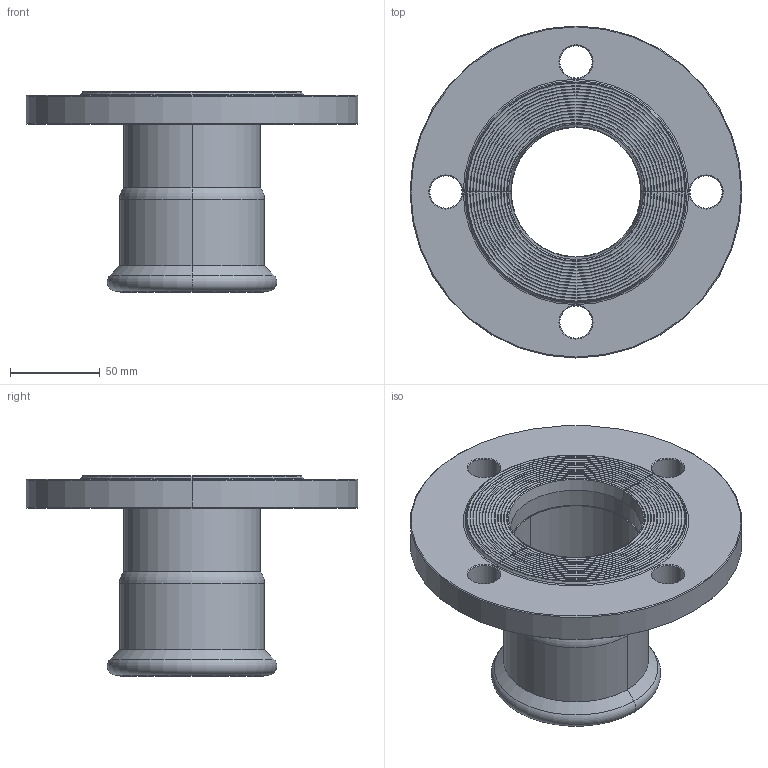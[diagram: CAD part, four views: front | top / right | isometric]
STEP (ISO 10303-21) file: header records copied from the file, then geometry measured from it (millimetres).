
FILE_DESCRIPTION(('Creo Elements/Direct Modeling STEP Export'),'2;1');
FILE_NAME('6206596.stp','2022-03-16T15:03:29',(''),(''),'PTC Creo Elements/Direct Modeling STEP processor for AP214 (Solid Model)','PTC Creo Elements/Direct Modeling 19.0C 15-Aug-2015 (C) Parametric Technology GmbH','');
FILE_SCHEMA(('AUTOMOTIVE_DESIGN { 1 0 10303 214 1 1 1 1 }'));
Length unit declared in the file: millimetre
Products named in the file (2): C1426_76
Assembly tree (1 placements, depth 2):
  C1426_76
    C1426_76
Bounding box: 185 x 185 x 111.7 mm (x, y, z)
Volume: 422454 mm3; surface area: 108711.7 mm2
Topology: 1 solids, 1 shells, 120 faces, 248 edges, 146 vertices
Faces by surface type: cone 44, torus 36, cylinder 22, plane 18
Entity records: 2845 total; most frequent: DIRECTION 502, ORIENTED_EDGE 496, CARTESIAN_POINT 430, EDGE_CURVE 248, AXIS2_PLACEMENT_3D 218, VERTEX_POINT 146, EDGE_LOOP 146, FACE_OUTER_BOUND 120
